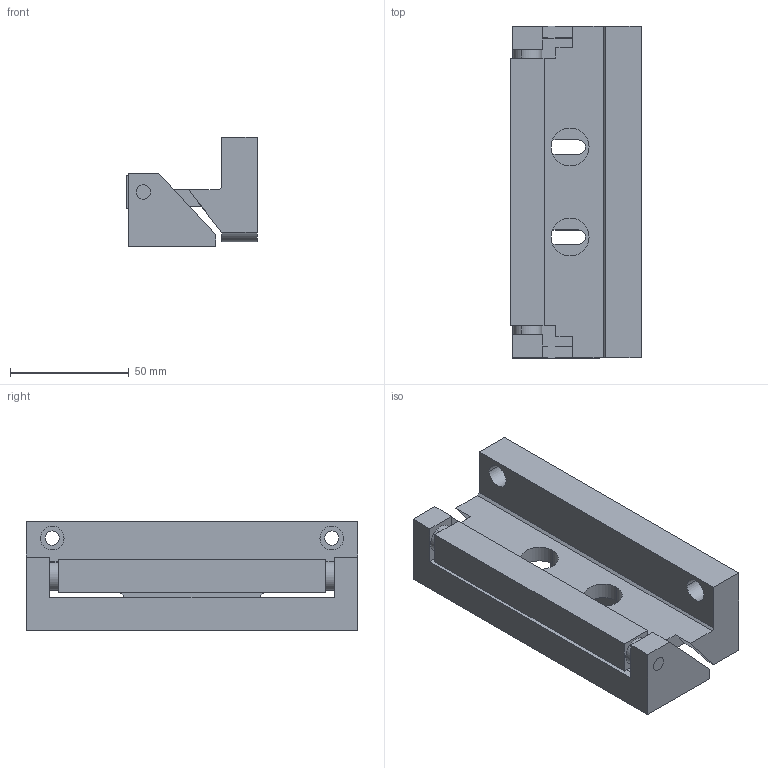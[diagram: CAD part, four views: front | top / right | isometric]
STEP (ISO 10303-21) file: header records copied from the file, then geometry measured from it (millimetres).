
FILE_DESCRIPTION (( 'STEP AP203' ), '1' );
FILE_NAME ('XG02-097.STEP', '2023-12-22T03:49:43', ( '' ), ( '' ), 'SwSTEP 2.0', 'SolidWorks 2020', '' );
FILE_SCHEMA (( 'CONFIG_CONTROL_DESIGN' ));
Length unit declared in the file: millimetre
Products named in the file (5): 菜え5; 02-97-2; XG02-097; 种赽1; 02-97-1
Assembly tree (5 placements, depth 2):
  XG02-097
    02-97-1
    02-97-2
    种赽1
    菜え5  x2
Bounding box: 55 x 140 x 46 mm (x, y, z)
Volume: 142280.3 mm3; surface area: 53086.4 mm2
Topology: 5 solids, 5 shells, 130 faces, 341 edges, 226 vertices
Faces by surface type: plane 74, cylinder 56
Entity records: 4480 total; most frequent: DIRECTION 697, CARTESIAN_POINT 679, ORIENTED_EDGE 658, EDGE_CURVE 329, AXIS2_PLACEMENT_3D 236, LINE 225, VECTOR 225, VERTEX_POINT 218
